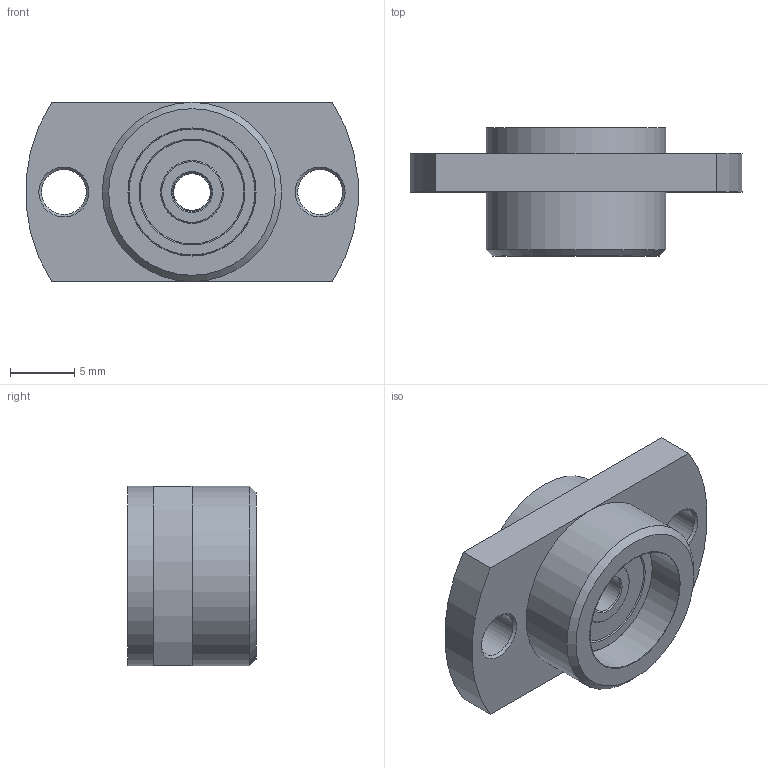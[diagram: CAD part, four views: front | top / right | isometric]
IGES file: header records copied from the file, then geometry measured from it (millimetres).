
Global section: file name:  ; native system: Kubotek KeyCreator; preprocessor: KCM Version 1.1.28; author: KeyCreator•p{ž; organization: Self; date: 20161124.011946; units: millimetre
Bounding box: 25.91 x 10 x 14 mm (x, y, z)
Surface area: 1465.2 mm2 (no closed solid volume)
Topology: 0 solids, 0 shells, 61 faces, 262 edges, 251 vertices
Faces by surface type: plane 31, revolution 30
